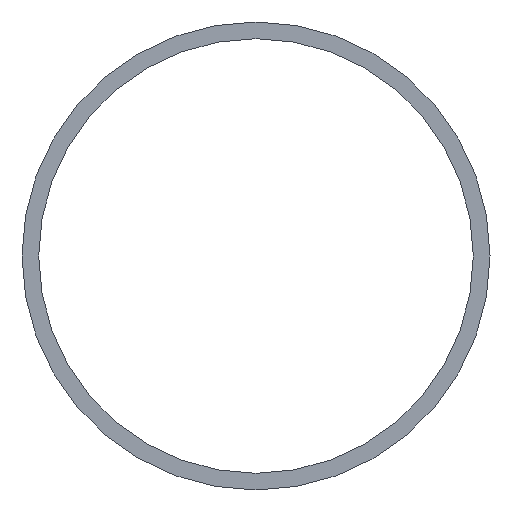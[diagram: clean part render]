
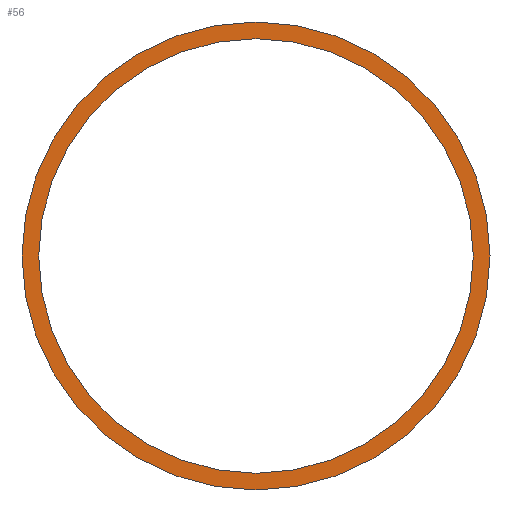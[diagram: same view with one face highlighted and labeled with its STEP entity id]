
A CAD part, left-side view. The second image highlights one B-rep face of the part: STEP entity #56.
In plain terms, the highlighted planar face has unit normal (-1, 0, 0).
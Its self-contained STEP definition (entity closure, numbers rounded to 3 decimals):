
#16 = EDGE_LOOP ( 'NONE', ( #288, #100 ) ) ;
#18 = DIRECTION ( 'NONE',  ( 1., 0., 0. ) ) ;
#26 = AXIS2_PLACEMENT_3D ( 'NONE', #184, #18, #272 ) ;
#29 = DIRECTION ( 'NONE',  ( 0., 1., 0. ) ) ;
#39 = ORIENTED_EDGE ( 'NONE', *, *, #107, .F. ) ;
#49 = CARTESIAN_POINT ( 'NONE',  ( -3000., -21., 0. ) ) ;
#51 = EDGE_LOOP ( 'NONE', ( #39, #291 ) ) ;
#53 = DIRECTION ( 'NONE',  ( -1., 0., 0. ) ) ;
#55 = VERTEX_POINT ( 'NONE', #57 ) ;
#56 = ADVANCED_FACE ( 'NONE', ( #206, #133 ), #86, .F. ) ;
#57 = CARTESIAN_POINT ( 'NONE',  ( -3000., -19.5, 0. ) ) ;
#59 = CARTESIAN_POINT ( 'NONE',  ( -3000., 19.5, 0. ) ) ;
#82 = VERTEX_POINT ( 'NONE', #59 ) ;
#86 = PLANE ( 'NONE',  #26 ) ;
#100 = ORIENTED_EDGE ( 'NONE', *, *, #193, .F. ) ;
#101 = CIRCLE ( 'NONE', #131, 19.5 ) ;
#107 = EDGE_CURVE ( 'NONE', #82, #55, #152, .T. ) ;
#124 = VERTEX_POINT ( 'NONE', #49 ) ;
#131 = AXIS2_PLACEMENT_3D ( 'NONE', #199, #53, #155 ) ;
#133 = FACE_OUTER_BOUND ( 'NONE', #16, .T. ) ;
#152 = CIRCLE ( 'NONE', #179, 19.5 ) ;
#155 = DIRECTION ( 'NONE',  ( 0., 1., 0. ) ) ;
#165 = EDGE_CURVE ( 'NONE', #176, #124, #197, .T. ) ;
#168 = DIRECTION ( 'NONE',  ( 1., 0., 0. ) ) ;
#173 = CARTESIAN_POINT ( 'NONE',  ( -3000., 0., 0. ) ) ;
#176 = VERTEX_POINT ( 'NONE', #196 ) ;
#179 = AXIS2_PLACEMENT_3D ( 'NONE', #173, #285, #283 ) ;
#184 = CARTESIAN_POINT ( 'NONE',  ( -3000., 0., 0. ) ) ;
#193 = EDGE_CURVE ( 'NONE', #124, #176, #251, .T. ) ;
#196 = CARTESIAN_POINT ( 'NONE',  ( -3000., 21., 0. ) ) ;
#197 = CIRCLE ( 'NONE', #234, 21. ) ;
#199 = CARTESIAN_POINT ( 'NONE',  ( -3000., 0., 0. ) ) ;
#206 = FACE_BOUND ( 'NONE', #51, .T. ) ;
#215 = DIRECTION ( 'NONE',  ( 1., 0., 0. ) ) ;
#234 = AXIS2_PLACEMENT_3D ( 'NONE', #237, #215, #29 ) ;
#235 = EDGE_CURVE ( 'NONE', #55, #82, #101, .T. ) ;
#237 = CARTESIAN_POINT ( 'NONE',  ( -3000., 0., 0. ) ) ;
#251 = CIRCLE ( 'NONE', #264, 21. ) ;
#257 = DIRECTION ( 'NONE',  ( 0., 1., 0. ) ) ;
#264 = AXIS2_PLACEMENT_3D ( 'NONE', #304, #168, #257 ) ;
#272 = DIRECTION ( 'NONE',  ( 0., 1., 0. ) ) ;
#283 = DIRECTION ( 'NONE',  ( 0., 1., 0. ) ) ;
#285 = DIRECTION ( 'NONE',  ( -1., 0., 0. ) ) ;
#288 = ORIENTED_EDGE ( 'NONE', *, *, #165, .F. ) ;
#291 = ORIENTED_EDGE ( 'NONE', *, *, #235, .F. ) ;
#304 = CARTESIAN_POINT ( 'NONE',  ( -3000., 0., 0. ) ) ;
